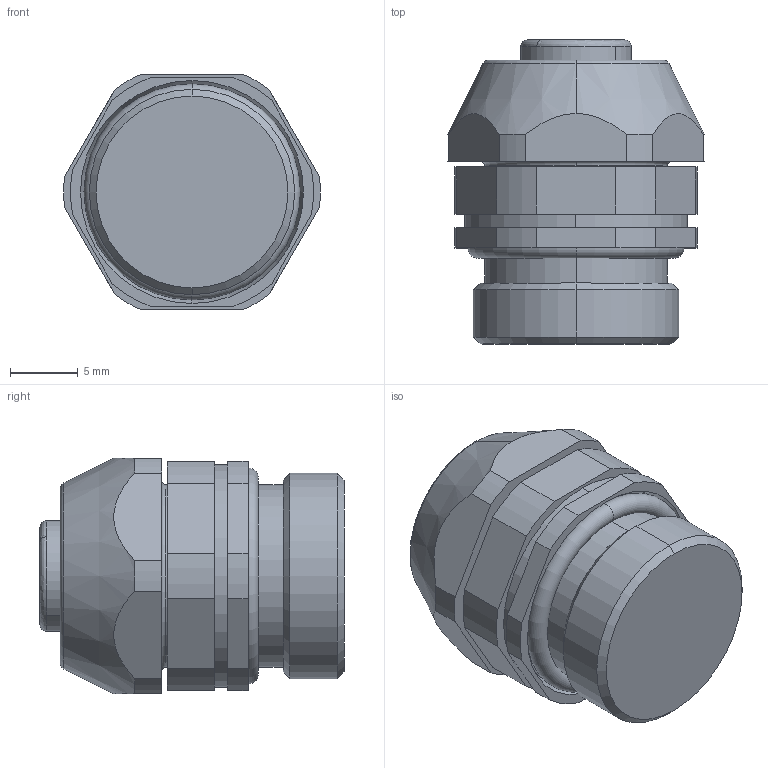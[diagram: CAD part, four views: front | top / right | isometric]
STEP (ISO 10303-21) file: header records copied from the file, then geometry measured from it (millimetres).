
FILE_DESCRIPTION (( 'STEP AP203' ), '1' );
FILE_NAME ('FKD_10.step', '2011-12-08T15:12:52', ( 'Turck User' ), ( '' ), 'SwSTEP 2.0', 'SolidWorks 2011', '' );
FILE_SCHEMA (( 'CONFIG_CONTROL_DESIGN' ));
Length unit declared in the file: millimetre
Products named in the file (1): FKD_10
Bounding box: 18.99 x 22.5 x 17.46 mm (x, y, z)
Volume: 3839.2 mm3; surface area: 3272.6 mm2
Topology: 1 solids, 3 shells, 351 faces, 1013 edges, 652 vertices
Faces by surface type: cylinder 236, plane 83, cone 18, torus 10, bspline 4
Entity records: 12247 total; most frequent: CARTESIAN_POINT 2641, DIRECTION 2126, ORIENTED_EDGE 2026, EDGE_CURVE 1013, AXIS2_PLACEMENT_3D 897, VERTEX_POINT 652, CIRCLE 549, EDGE_LOOP 387
